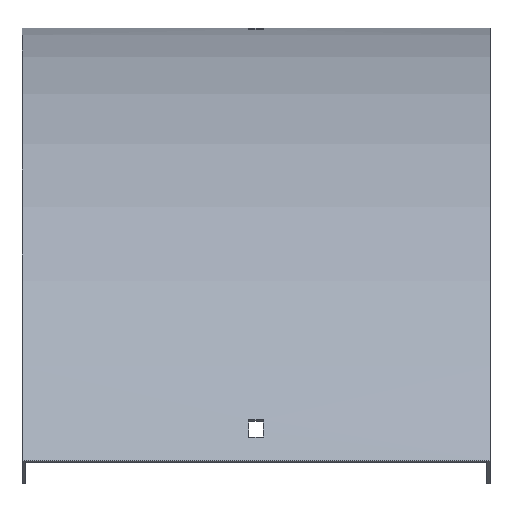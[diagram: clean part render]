
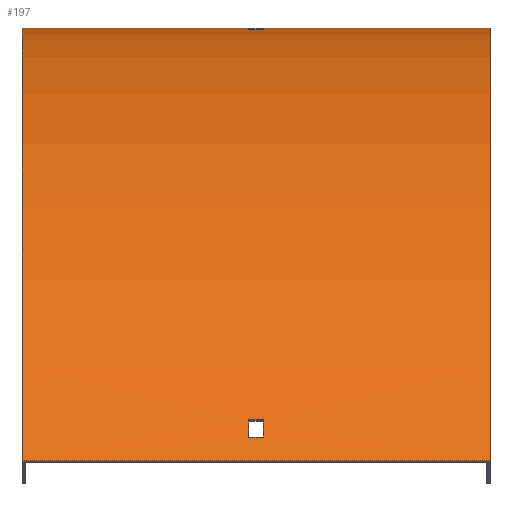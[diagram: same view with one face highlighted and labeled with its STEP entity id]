
A CAD part, top view. The second image highlights one B-rep face of the part: STEP entity #197.
In plain terms, the highlighted cylindrical face has radius 376.5 mm (diameter 753 mm), a partial arc.
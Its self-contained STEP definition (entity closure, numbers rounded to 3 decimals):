
#4 = EDGE_LOOP ( 'NONE', ( #241, #251, #488, #387 ) ) ;
#12 = CARTESIAN_POINT ( 'NONE',  ( -3.25, -170.357, 315.051 ) ) ;
#17 = EDGE_CURVE ( 'NONE', #231, #428, #538, .T. ) ;
#21 = CARTESIAN_POINT ( 'NONE',  ( 3.25, -170.357, 315.051 ) ) ;
#28 = DIRECTION ( 'NONE',  ( -1., 0., 0. ) ) ;
#29 = DIRECTION ( 'NONE',  ( 0., 0., 1. ) ) ;
#33 = LINE ( 'NONE', #547, #415 ) ;
#40 = ORIENTED_EDGE ( 'NONE', *, *, #70, .F. ) ;
#46 = VECTOR ( 'NONE', #330, 1000. ) ;
#49 = CARTESIAN_POINT ( 'NONE',  ( 101.5, 0., 0. ) ) ;
#56 = LINE ( 'NONE', #519, #182 ) ;
#64 = CARTESIAN_POINT ( 'NONE',  ( 101.5, -170.357, 315.051 ) ) ;
#69 = EDGE_CURVE ( 'NONE', #485, #594, #136, .T. ) ;
#70 = EDGE_CURVE ( 'NONE', #288, #142, #525, .T. ) ;
#75 = CIRCLE ( 'NONE', #234, 376.5 ) ;
#80 = CARTESIAN_POINT ( 'NONE',  ( -3.25, -177.953, 319.893 ) ) ;
#82 = CARTESIAN_POINT ( 'NONE',  ( 3.25, -0.191, 12. ) ) ;
#83 = CARTESIAN_POINT ( 'NONE',  ( 101.5, -376.5, 0. ) ) ;
#87 = EDGE_LOOP ( 'NONE', ( #293, #528, #449, #361 ) ) ;
#93 = LINE ( 'NONE', #49, #262 ) ;
#105 = VERTEX_POINT ( 'NONE', #119 ) ;
#119 = CARTESIAN_POINT ( 'NONE',  ( -101.5, 0., 0. ) ) ;
#121 = CARTESIAN_POINT ( 'NONE',  ( -3.25, -376.5, 0. ) ) ;
#122 = AXIS2_PLACEMENT_3D ( 'NONE', #284, #137, #465 ) ;
#123 = CARTESIAN_POINT ( 'NONE',  ( 101.5, -177.953, 319.893 ) ) ;
#134 = EDGE_CURVE ( 'NONE', #105, #441, #75, .T. ) ;
#136 = CIRCLE ( 'NONE', #282, 376.5 ) ;
#137 = DIRECTION ( 'NONE',  ( 1., 0., 0. ) ) ;
#142 = VERTEX_POINT ( 'NONE', #283 ) ;
#159 = DIRECTION ( 'NONE',  ( 1., 0., 0. ) ) ;
#161 = ORIENTED_EDGE ( 'NONE', *, *, #363, .T. ) ;
#168 = DIRECTION ( 'NONE',  ( 0., 0., -1. ) ) ;
#169 = LINE ( 'NONE', #123, #46 ) ;
#171 = CIRCLE ( 'NONE', #551, 376.5 ) ;
#182 = VECTOR ( 'NONE', #436, 1000. ) ;
#197 = ADVANCED_FACE ( 'NONE', ( #377, #292, #425 ), #374, .T. ) ;
#205 = CARTESIAN_POINT ( 'NONE',  ( 3.25, -376.5, 0. ) ) ;
#208 = CARTESIAN_POINT ( 'NONE',  ( 3.25, -177.953, 319.893 ) ) ;
#210 = AXIS2_PLACEMENT_3D ( 'NONE', #280, #159, #548 ) ;
#212 = DIRECTION ( 'NONE',  ( 1., 0., 0. ) ) ;
#216 = VECTOR ( 'NONE', #28, 1000. ) ;
#225 = EDGE_CURVE ( 'NONE', #532, #410, #239, .T. ) ;
#231 = VERTEX_POINT ( 'NONE', #82 ) ;
#234 = AXIS2_PLACEMENT_3D ( 'NONE', #384, #240, #512 ) ;
#239 = CIRCLE ( 'NONE', #122, 376.5 ) ;
#240 = DIRECTION ( 'NONE',  ( 1., 0., 0. ) ) ;
#241 = ORIENTED_EDGE ( 'NONE', *, *, #605, .T. ) ;
#244 = DIRECTION ( 'NONE',  ( -1., 0., 0. ) ) ;
#247 = CARTESIAN_POINT ( 'NONE',  ( -3.25, -0.191, 12. ) ) ;
#251 = ORIENTED_EDGE ( 'NONE', *, *, #69, .T. ) ;
#253 = LINE ( 'NONE', #567, #566 ) ;
#262 = VECTOR ( 'NONE', #244, 1000. ) ;
#280 = CARTESIAN_POINT ( 'NONE',  ( 101.5, -376.5, 0. ) ) ;
#282 = AXIS2_PLACEMENT_3D ( 'NONE', #121, #504, #29 ) ;
#283 = CARTESIAN_POINT ( 'NONE',  ( 101.5, -188.25, 326.059 ) ) ;
#284 = CARTESIAN_POINT ( 'NONE',  ( -3.25, -376.5, 0. ) ) ;
#288 = VERTEX_POINT ( 'NONE', #533 ) ;
#292 = FACE_BOUND ( 'NONE', #4, .T. ) ;
#293 = ORIENTED_EDGE ( 'NONE', *, *, #225, .F. ) ;
#304 = DIRECTION ( 'NONE',  ( -1., 0., 0. ) ) ;
#310 = EDGE_CURVE ( 'NONE', #479, #351, #171, .T. ) ;
#330 = DIRECTION ( 'NONE',  ( 1., 0., 0. ) ) ;
#339 = DIRECTION ( 'NONE',  ( 0., 0., 1. ) ) ;
#341 = DIRECTION ( 'NONE',  ( -1., 0., 0. ) ) ;
#349 = LINE ( 'NONE', #64, #216 ) ;
#351 = VERTEX_POINT ( 'NONE', #21 ) ;
#352 = EDGE_CURVE ( 'NONE', #594, #231, #253, .T. ) ;
#361 = ORIENTED_EDGE ( 'NONE', *, *, #482, .F. ) ;
#363 = EDGE_CURVE ( 'NONE', #288, #105, #93, .T. ) ;
#366 = CARTESIAN_POINT ( 'NONE',  ( 3.25, -0.586, 21. ) ) ;
#374 = CYLINDRICAL_SURFACE ( 'NONE', #453, 376.5 ) ;
#377 = FACE_OUTER_BOUND ( 'NONE', #404, .T. ) ;
#383 = ORIENTED_EDGE ( 'NONE', *, *, #134, .T. ) ;
#384 = CARTESIAN_POINT ( 'NONE',  ( -101.5, -376.5, 0. ) ) ;
#387 = ORIENTED_EDGE ( 'NONE', *, *, #17, .T. ) ;
#402 = DIRECTION ( 'NONE',  ( 0., 0., 1. ) ) ;
#404 = EDGE_LOOP ( 'NONE', ( #383, #561, #40, #161 ) ) ;
#408 = EDGE_CURVE ( 'NONE', #351, #532, #349, .T. ) ;
#410 = VERTEX_POINT ( 'NONE', #80 ) ;
#415 = VECTOR ( 'NONE', #456, 1000. ) ;
#425 = FACE_BOUND ( 'NONE', #87, .T. ) ;
#428 = VERTEX_POINT ( 'NONE', #366 ) ;
#433 = EDGE_CURVE ( 'NONE', #142, #441, #33, .T. ) ;
#436 = DIRECTION ( 'NONE',  ( -1., 0., 0. ) ) ;
#439 = DIRECTION ( 'NONE',  ( 1., 0., 0. ) ) ;
#441 = VERTEX_POINT ( 'NONE', #543 ) ;
#449 = ORIENTED_EDGE ( 'NONE', *, *, #310, .F. ) ;
#453 = AXIS2_PLACEMENT_3D ( 'NONE', #83, #341, #339 ) ;
#456 = DIRECTION ( 'NONE',  ( -1., 0., 0. ) ) ;
#458 = AXIS2_PLACEMENT_3D ( 'NONE', #596, #212, #168 ) ;
#459 = CARTESIAN_POINT ( 'NONE',  ( -3.25, -0.586, 21. ) ) ;
#465 = DIRECTION ( 'NONE',  ( 0., 1., 0. ) ) ;
#479 = VERTEX_POINT ( 'NONE', #208 ) ;
#482 = EDGE_CURVE ( 'NONE', #410, #479, #169, .T. ) ;
#485 = VERTEX_POINT ( 'NONE', #459 ) ;
#488 = ORIENTED_EDGE ( 'NONE', *, *, #352, .T. ) ;
#504 = DIRECTION ( 'NONE',  ( -1., 0., 0. ) ) ;
#512 = DIRECTION ( 'NONE',  ( 0., 0., -1. ) ) ;
#519 = CARTESIAN_POINT ( 'NONE',  ( 101.5, -0.586, 21. ) ) ;
#525 = CIRCLE ( 'NONE', #210, 376.5 ) ;
#528 = ORIENTED_EDGE ( 'NONE', *, *, #408, .F. ) ;
#532 = VERTEX_POINT ( 'NONE', #12 ) ;
#533 = CARTESIAN_POINT ( 'NONE',  ( 101.5, 0., 0. ) ) ;
#538 = CIRCLE ( 'NONE', #458, 376.5 ) ;
#543 = CARTESIAN_POINT ( 'NONE',  ( -101.5, -188.25, 326.059 ) ) ;
#547 = CARTESIAN_POINT ( 'NONE',  ( 101.5, -188.25, 326.059 ) ) ;
#548 = DIRECTION ( 'NONE',  ( 0., 0., -1. ) ) ;
#551 = AXIS2_PLACEMENT_3D ( 'NONE', #205, #304, #402 ) ;
#561 = ORIENTED_EDGE ( 'NONE', *, *, #433, .F. ) ;
#566 = VECTOR ( 'NONE', #439, 1000. ) ;
#567 = CARTESIAN_POINT ( 'NONE',  ( 101.5, -0.191, 12. ) ) ;
#594 = VERTEX_POINT ( 'NONE', #247 ) ;
#596 = CARTESIAN_POINT ( 'NONE',  ( 3.25, -376.5, 0. ) ) ;
#605 = EDGE_CURVE ( 'NONE', #428, #485, #56, .T. ) ;
